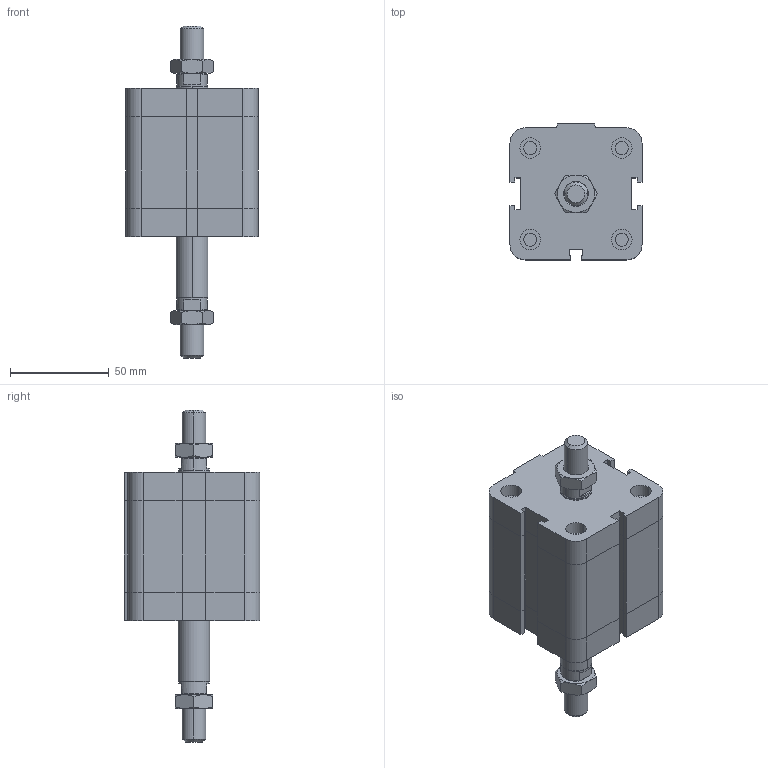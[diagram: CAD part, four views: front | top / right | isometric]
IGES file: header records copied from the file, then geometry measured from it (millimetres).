
Global section: file name: No Iges File Name specified; native system: Autodesk Inventor 2009; preprocessor: AutoDesk Inventor Iges Exporter R2009; author: maffial1; date: 20090420.200721; units: millimetre
Bounding box: 67 x 69 x 168.5 mm (x, y, z)
Volume: 331487 mm3; surface area: 50070.8 mm2
Topology: 4 solids, 4 shells, 260 faces, 574 edges, 342 vertices
Faces by surface type: plane 129, bspline 51, cone 38, cylinder 22, revolution 20
